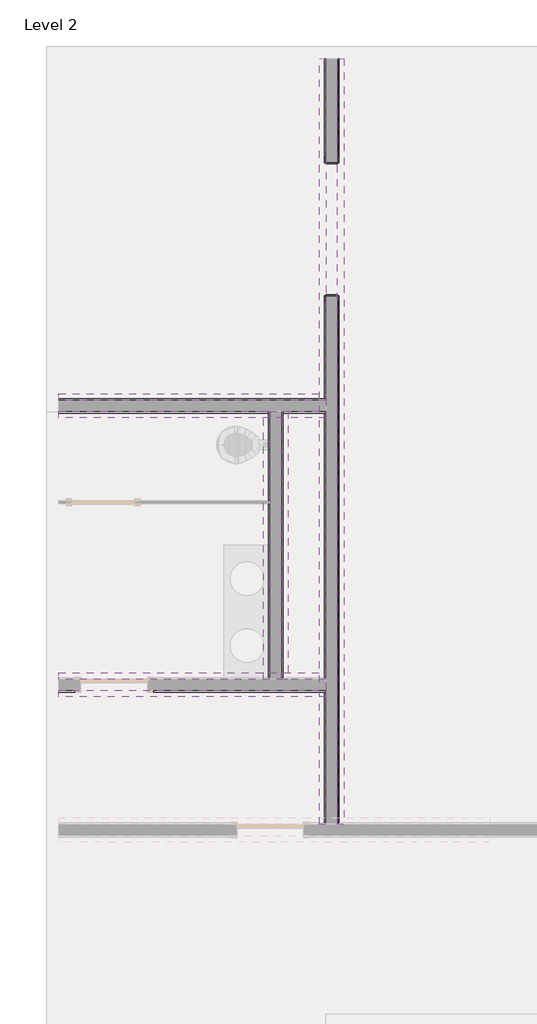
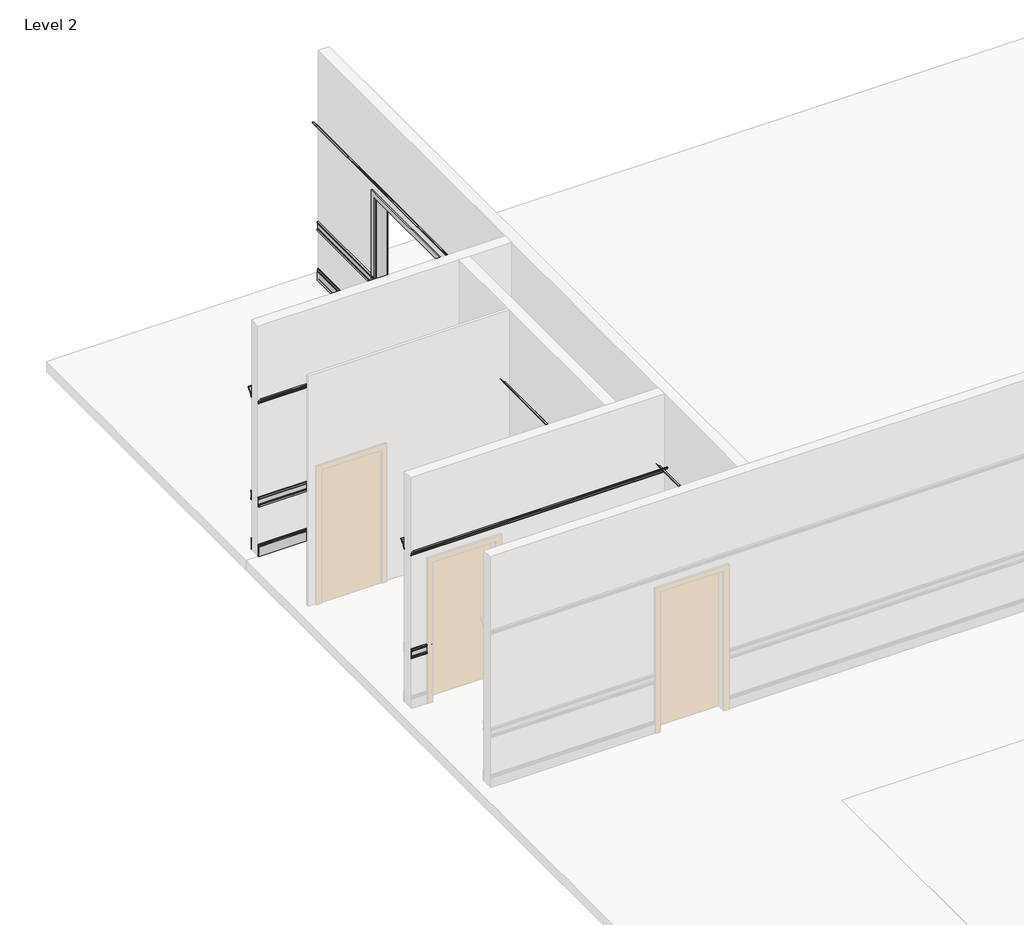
# One storey, part 14 of 14: 22 proxies.
"""IFC4 building model written with IfcOpenShell, lengths in millimetres."""

from ifc_helpers import new_model, si_unit, point, frame, frame_2d, origin, place, context, project, spatial, polyline, circle_curve, trimmed, segment, composite_curve, outline, extrude, transform, mapped, element, save
from components import proxy_2c88b4db

model = new_model("IFC4")

# Units and contexts
model_context = context("Model", 3, world=origin())
ifc_project = project(units=[si_unit("LENGTHUNIT", "METRE", prefix="MILLI")], contexts=[model_context])

# Site, building, storey
site = spatial("IfcSite", under=ifc_project)
building = spatial("IfcBuilding", under=site)
storey = spatial("IfcBuildingStorey", under=building, Name="Level 2", Elevation=3657.6)

# Proxies
placement = place(None, origin())
element("IfcBuildingElementProxy", 1, Name="Wall Sweeps", at=placement, inside=storey, context=model_context, shape_type="SweptSolid", body=[
    extrude(outline(composite_curve([segment(polyline([(3803.65, -13237.3910278), (3804.1164076, -13239.5853029)]), True, "CONTINUOUS"), segment(trimmed(circle_curve(frame_2d((3804.8928122, -13239.420273)), 0.79375), [point((3804.1164076, -13239.5853029))], [point((3805.438329, -13239.9968583))], True, "CARTESIAN"), True, "CONTINUOUS"), segment(trimmed(circle_curve(frame_2d((3812.047453, -13246.9160279)), 9.5684601), [point((3805.438329, -13239.9968583))], [point((3817.4244174, -13239.0012517))], False, "CARTESIAN"), True, "CONTINUOUS"), segment(polyline([(3817.4244174, -13239.0012517), (3827.5015472, -13245.8425445)]), True, "CONTINUOUS"), segment(trimmed(circle_curve(frame_2d((3831.034375, -13240.5660279)), 6.35), [point((3827.5015472, -13245.8425445))], [point((3836.0425393, -13244.4699733))], True, "CARTESIAN"), True, "CONTINUOUS"), segment(polyline([(3836.0425393, -13244.4699733), (3841.75, -13246.9160279), (3841.75, -13253.2660279), (3797.3, -13253.2660279), (3795.7125, -13251.6785279), (3684.5875, -13251.6785279), (3683.0, -13253.2660279), (3657.6, -13253.2660279), (3657.6, -13237.3910278), (3803.65, -13237.3910278)]), True, "CONTINUOUS")], self_intersect=False)), frame((0.0, 7914.5398319, 0.0), z_axis=(0.0, 1.0, 0.0), x_axis=(0.0, 0.0, 1.0)), (0.0, 0.0, 1.0), 1419.225),
    extrude(outline(composite_curve([segment(polyline([(3803.65, -13237.3910278), (3804.1164076, -13239.5853029)]), True, "CONTINUOUS"), segment(trimmed(circle_curve(frame_2d((3804.8928122, -13239.420273)), 0.79375), [point((3804.1164076, -13239.5853029))], [point((3805.438329, -13239.9968583))], True, "CARTESIAN"), True, "CONTINUOUS"), segment(trimmed(circle_curve(frame_2d((3812.047453, -13246.9160279)), 9.5684601), [point((3805.438329, -13239.9968583))], [point((3817.4244174, -13239.0012517))], False, "CARTESIAN"), True, "CONTINUOUS"), segment(polyline([(3817.4244174, -13239.0012517), (3827.5015472, -13245.8425445)]), True, "CONTINUOUS"), segment(trimmed(circle_curve(frame_2d((3831.034375, -13240.5660279)), 6.35), [point((3827.5015472, -13245.8425445))], [point((3836.0425393, -13244.4699733))], True, "CARTESIAN"), True, "CONTINUOUS"), segment(polyline([(3836.0425393, -13244.4699733), (3841.75, -13246.9160279), (3841.75, -13253.2660279), (3797.3, -13253.2660279), (3795.7125, -13251.6785279), (3684.5875, -13251.6785279), (3683.0, -13253.2660279), (3657.6, -13253.2660279), (3657.6, -13237.3910278), (3803.65, -13237.3910278)]), True, "CONTINUOUS")], self_intersect=False)), frame((0.0, -1131.0351681, 0.0), z_axis=(0.0, 1.0, 0.0), x_axis=(0.0, 0.0, 1.0)), (0.0, 0.0, 1.0), 7216.775),
])
element("IfcBuildingElementProxy", 2, Name="Wall Sweeps", at=placement, inside=storey, context=model_context, shape_type="SweptSolid", body=[
    extrude(outline(composite_curve([segment(polyline([(3803.65, -13424.716028), (3657.6, -13424.716028), (3657.6, -13408.8410279), (3683.0, -13408.8410279), (3684.5875, -13410.4285279), (3795.7125, -13410.4285279), (3797.3, -13408.8410279), (3841.75, -13408.8410279), (3841.75, -13415.1910279), (3836.0425393, -13417.6370825)]), True, "CONTINUOUS"), segment(trimmed(circle_curve(frame_2d((3831.034375, -13421.5410279)), 6.35), [point((3836.0425393, -13417.6370825))], [point((3827.5015472, -13416.2645113))], True, "CARTESIAN"), True, "CONTINUOUS"), segment(polyline([(3827.5015472, -13416.2645113), (3817.4244174, -13423.1058041)]), True, "CONTINUOUS"), segment(trimmed(circle_curve(frame_2d((3812.047453, -13415.1910279)), 9.5684601), [point((3817.4244174, -13423.1058041))], [point((3805.438329, -13422.1101975))], False, "CARTESIAN"), True, "CONTINUOUS"), segment(trimmed(circle_curve(frame_2d((3804.8928122, -13422.6867828)), 0.79375), [point((3805.438329, -13422.1101975))], [point((3804.1164076, -13422.5217529))], True, "CARTESIAN"), True, "CONTINUOUS"), segment(polyline([(3804.1164076, -13422.5217529), (3803.65, -13424.716028)]), True, "CONTINUOUS")], self_intersect=False)), frame((0.0, -1131.0351681, 0.0), z_axis=(0.0, 1.0, 0.0), x_axis=(0.0, 0.0, 1.0)), (0.0, 0.0, 1.0), 7216.775),
    extrude(outline(composite_curve([segment(polyline([(3803.65, -13424.716028), (3657.6, -13424.716028), (3657.6, -13408.8410279), (3683.0, -13408.8410279), (3684.5875, -13410.4285279), (3795.7125, -13410.4285279), (3797.3, -13408.8410279), (3841.75, -13408.8410279), (3841.75, -13415.1910279), (3836.0425393, -13417.6370825)]), True, "CONTINUOUS"), segment(trimmed(circle_curve(frame_2d((3831.034375, -13421.5410279)), 6.35), [point((3836.0425393, -13417.6370825))], [point((3827.5015472, -13416.2645113))], True, "CARTESIAN"), True, "CONTINUOUS"), segment(polyline([(3827.5015472, -13416.2645113), (3817.4244174, -13423.1058041)]), True, "CONTINUOUS"), segment(trimmed(circle_curve(frame_2d((3812.047453, -13415.1910279)), 9.5684601), [point((3817.4244174, -13423.1058041))], [point((3805.438329, -13422.1101975))], False, "CARTESIAN"), True, "CONTINUOUS"), segment(trimmed(circle_curve(frame_2d((3804.8928122, -13422.6867828)), 0.79375), [point((3805.438329, -13422.1101975))], [point((3804.1164076, -13422.5217529))], True, "CARTESIAN"), True, "CONTINUOUS"), segment(polyline([(3804.1164076, -13422.5217529), (3803.65, -13424.716028)]), True, "CONTINUOUS")], self_intersect=False)), frame((0.0, 7914.5398319, 0.0), z_axis=(0.0, 1.0, 0.0), x_axis=(0.0, 0.0, 1.0)), (0.0, 0.0, 1.0), 1419.225),
])
element("IfcBuildingElementProxy", 3, Name="Wall Sweeps", at=placement, inside=storey, context=model_context, shape_type="SweptSolid", body=[
    extrude(outline(composite_curve([segment(polyline([(4438.65, -13251.6785279), (4437.0625, -13253.2660279), (4419.6, -13253.2660279), (4419.6, -13232.6285279), (4438.65, -13232.6285279), (4438.65, -13235.0097779)]), True, "CONTINUOUS"), segment(trimmed(circle_curve(frame_2d((4441.03125, -13240.0298937)), 5.55625), [point((4438.65, -13235.0097779))], [point((4444.9601121, -13236.1010316))], False, "CARTESIAN"), True, "CONTINUOUS"), segment(trimmed(circle_curve(frame_2d((4453.7135672, -13228.3142086)), 11.7156984), [point((4444.9601121, -13236.1010316))], [point((4453.73125, -13240.0298937))], True, "CARTESIAN"), True, "CONTINUOUS"), segment(polyline([(4453.73125, -13240.0298937), (4453.73125, -13242.1535279), (4525.16875, -13242.1535279), (4525.16875, -13240.0298937)]), True, "CONTINUOUS"), segment(trimmed(circle_curve(frame_2d((4525.1864328, -13228.3142086)), 11.7156984), [point((4525.16875, -13240.0298937))], [point((4533.9398879, -13236.1010316))], True, "CARTESIAN"), True, "CONTINUOUS"), segment(trimmed(circle_curve(frame_2d((4537.86875, -13240.0298937)), 5.55625), [point((4533.9398879, -13236.1010316))], [point((4540.25, -13235.0097779))], False, "CARTESIAN"), True, "CONTINUOUS"), segment(polyline([(4540.25, -13235.0097779), (4540.25, -13232.6285279), (4559.3, -13232.6285279), (4559.3, -13253.2660279), (4541.8375, -13253.2660279), (4540.25, -13251.6785279), (4438.65, -13251.6785279)]), True, "CONTINUOUS")], self_intersect=False)), frame((0.0, 7914.5398319, 0.0), z_axis=(0.0, 1.0, 0.0), x_axis=(0.0, 0.0, 1.0)), (0.0, 0.0, 1.0), 1419.225),
    extrude(outline(composite_curve([segment(polyline([(4438.65, -13251.6785279), (4437.0625, -13253.2660279), (4419.6, -13253.2660279), (4419.6, -13232.6285279), (4438.65, -13232.6285279), (4438.65, -13235.0097779)]), True, "CONTINUOUS"), segment(trimmed(circle_curve(frame_2d((4441.03125, -13240.0298937)), 5.55625), [point((4438.65, -13235.0097779))], [point((4444.9601121, -13236.1010316))], False, "CARTESIAN"), True, "CONTINUOUS"), segment(trimmed(circle_curve(frame_2d((4453.7135672, -13228.3142086)), 11.7156984), [point((4444.9601121, -13236.1010316))], [point((4453.73125, -13240.0298937))], True, "CARTESIAN"), True, "CONTINUOUS"), segment(polyline([(4453.73125, -13240.0298937), (4453.73125, -13242.1535279), (4525.16875, -13242.1535279), (4525.16875, -13240.0298937)]), True, "CONTINUOUS"), segment(trimmed(circle_curve(frame_2d((4525.1864328, -13228.3142086)), 11.7156984), [point((4525.16875, -13240.0298937))], [point((4533.9398879, -13236.1010316))], True, "CARTESIAN"), True, "CONTINUOUS"), segment(trimmed(circle_curve(frame_2d((4537.86875, -13240.0298937)), 5.55625), [point((4533.9398879, -13236.1010316))], [point((4540.25, -13235.0097779))], False, "CARTESIAN"), True, "CONTINUOUS"), segment(polyline([(4540.25, -13235.0097779), (4540.25, -13232.6285279), (4559.3, -13232.6285279), (4559.3, -13253.2660279), (4541.8375, -13253.2660279), (4540.25, -13251.6785279), (4438.65, -13251.6785279)]), True, "CONTINUOUS")], self_intersect=False)), frame((0.0, -1131.0351681, 0.0), z_axis=(0.0, 1.0, 0.0), x_axis=(0.0, 0.0, 1.0)), (0.0, 0.0, 1.0), 7216.775),
])
element("IfcBuildingElementProxy", 4, Name="Wall Sweeps", at=placement, inside=storey, context=model_context, shape_type="SweptSolid", body=[
    extrude(outline(composite_curve([segment(polyline([(4438.65, -13410.4285279), (4540.25, -13410.4285279), (4541.8375, -13408.8410279), (4559.3, -13408.8410279), (4559.3, -13429.4785279), (4540.25, -13429.4785279), (4540.25, -13427.0972779)]), True, "CONTINUOUS"), segment(trimmed(circle_curve(frame_2d((4537.86875, -13422.0771621)), 5.55625), [point((4540.25, -13427.0972779))], [point((4533.9398879, -13426.0060242))], False, "CARTESIAN"), True, "CONTINUOUS"), segment(trimmed(circle_curve(frame_2d((4525.1864328, -13433.7928472)), 11.7156984), [point((4533.9398879, -13426.0060242))], [point((4525.16875, -13422.0771621))], True, "CARTESIAN"), True, "CONTINUOUS"), segment(polyline([(4525.16875, -13422.0771621), (4525.16875, -13419.9535279), (4453.73125, -13419.9535279), (4453.73125, -13422.0771621)]), True, "CONTINUOUS"), segment(trimmed(circle_curve(frame_2d((4453.7135672, -13433.7928472)), 11.7156984), [point((4453.73125, -13422.0771621))], [point((4444.9601121, -13426.0060242))], True, "CARTESIAN"), True, "CONTINUOUS"), segment(trimmed(circle_curve(frame_2d((4441.03125, -13422.0771621)), 5.55625), [point((4444.9601121, -13426.0060242))], [point((4438.65, -13427.0972779))], False, "CARTESIAN"), True, "CONTINUOUS"), segment(polyline([(4438.65, -13427.0972779), (4438.65, -13429.4785279), (4419.6, -13429.4785279), (4419.6, -13408.8410279), (4437.0625, -13408.8410279), (4438.65, -13410.4285279)]), True, "CONTINUOUS")], self_intersect=False)), frame((0.0, -1131.0351681, 0.0), z_axis=(0.0, 1.0, 0.0), x_axis=(0.0, 0.0, 1.0)), (0.0, 0.0, 1.0), 7216.775),
    extrude(outline(composite_curve([segment(polyline([(4438.65, -13410.4285279), (4540.25, -13410.4285279), (4541.8375, -13408.8410279), (4559.3, -13408.8410279), (4559.3, -13429.4785279), (4540.25, -13429.4785279), (4540.25, -13427.0972779)]), True, "CONTINUOUS"), segment(trimmed(circle_curve(frame_2d((4537.86875, -13422.0771621)), 5.55625), [point((4540.25, -13427.0972779))], [point((4533.9398879, -13426.0060242))], False, "CARTESIAN"), True, "CONTINUOUS"), segment(trimmed(circle_curve(frame_2d((4525.1864328, -13433.7928472)), 11.7156984), [point((4533.9398879, -13426.0060242))], [point((4525.16875, -13422.0771621))], True, "CARTESIAN"), True, "CONTINUOUS"), segment(polyline([(4525.16875, -13422.0771621), (4525.16875, -13419.9535279), (4453.73125, -13419.9535279), (4453.73125, -13422.0771621)]), True, "CONTINUOUS"), segment(trimmed(circle_curve(frame_2d((4453.7135672, -13433.7928472)), 11.7156984), [point((4453.73125, -13422.0771621))], [point((4444.9601121, -13426.0060242))], True, "CARTESIAN"), True, "CONTINUOUS"), segment(trimmed(circle_curve(frame_2d((4441.03125, -13422.0771621)), 5.55625), [point((4444.9601121, -13426.0060242))], [point((4438.65, -13427.0972779))], False, "CARTESIAN"), True, "CONTINUOUS"), segment(polyline([(4438.65, -13427.0972779), (4438.65, -13429.4785279), (4419.6, -13429.4785279), (4419.6, -13408.8410279), (4437.0625, -13408.8410279), (4438.65, -13410.4285279)]), True, "CONTINUOUS")], self_intersect=False)), frame((0.0, 7914.5398319, 0.0), z_axis=(0.0, 1.0, 0.0), x_axis=(0.0, 0.0, 1.0)), (0.0, 0.0, 1.0), 1419.225),
])
element("IfcBuildingElementProxy", 5, Name="Wall Sweeps", at=placement, inside=storey, context=model_context, shape_type="SweptSolid", body=[
    extrude(outline(composite_curve([segment(polyline([(6095.999973, -13185.0728653), (6009.4919306, -13253.2660279), (5984.875, -13253.2660279), (5984.875, -13246.0831607)]), True, "CONTINUOUS"), segment(trimmed(circle_curve(frame_2d((5984.8589154, -13238.8297413)), 7.2534372), [point((5984.875, -13246.0831607))], [point((5991.3297498, -13242.1070348))], True, "CARTESIAN"), True, "CONTINUOUS"), segment(polyline([(5991.3297498, -13242.1070348), (5995.6157037, -13242.1070348)]), True, "CONTINUOUS"), segment(trimmed(circle_curve(frame_2d((6005.5606001, -13245.4685575)), 10.4976568), [point((5995.6157037, -13242.1070348))], [point((6006.0207604, -13234.980991))], False, "CARTESIAN"), True, "CONTINUOUS"), segment(polyline([(6006.0207604, -13234.980991), (6006.0207604, -13231.3921501), (6011.0554653, -13231.3921501), (6011.0554653, -13228.1647752)]), True, "CONTINUOUS"), segment(trimmed(circle_curve(frame_2d((6007.8346746, -13181.2163732)), 47.0587499), [point((6011.0554653, -13228.1647752))], [point((6049.7194168, -13202.6685134))], True, "CARTESIAN"), True, "CONTINUOUS"), segment(polyline([(6049.7194168, -13202.6685134), (6054.4442936, -13195.4262841)]), True, "CONTINUOUS"), segment(trimmed(circle_curve(frame_2d((6074.6589994, -13203.7344754)), 21.8554426), [point((6054.4442936, -13195.4262841))], [point((6073.7698146, -13181.8971284))], False, "CARTESIAN"), True, "CONTINUOUS"), segment(polyline([(6073.7698146, -13181.8971284), (6079.2202934, -13181.8971284), (6079.2202934, -13179.1285646)]), True, "CONTINUOUS"), segment(trimmed(circle_curve(frame_2d((6087.2314026, -13178.186238)), 8.0663405), [point((6079.2202934, -13179.1285646))], [point((6085.3986257, -13170.3308718))], False, "CARTESIAN"), True, "CONTINUOUS"), segment(trimmed(circle_curve(frame_2d((6081.5641253, -13163.0468868)), 8.2316359), [point((6085.3986257, -13170.3308718))], [point((6088.8481102, -13166.8813873))], True, "CARTESIAN"), True, "CONTINUOUS"), segment(polyline([(6088.8481102, -13166.8813873), (6088.8481102, -13164.3660279), (6095.999973, -13164.3660279), (6095.999973, -13185.0728653)]), True, "CONTINUOUS")], self_intersect=False)), frame((0.0, -1131.0351681, 0.0), z_axis=(0.0, 1.0, 0.0), x_axis=(0.0, 0.0, 1.0)), (0.0, 0.0, 1.0), 10464.8),
])
element("IfcBuildingElementProxy", 6, Name="Wall Sweeps", at=placement, inside=storey, context=model_context, shape_type="SweptSolid", body=[
    extrude(outline(composite_curve([segment(polyline([(6095.999973, -13477.0341905), (6095.999973, -13497.7410279), (6088.8481102, -13497.7410279), (6088.8481102, -13495.2256685)]), True, "CONTINUOUS"), segment(trimmed(circle_curve(frame_2d((6081.5641253, -13499.0601689)), 8.2316359), [point((6088.8481102, -13495.2256685))], [point((6085.3986257, -13491.776184))], True, "CARTESIAN"), True, "CONTINUOUS"), segment(trimmed(circle_curve(frame_2d((6087.2314026, -13483.9208178)), 8.0663405), [point((6085.3986257, -13491.776184))], [point((6079.2202934, -13482.9784911))], False, "CARTESIAN"), True, "CONTINUOUS"), segment(polyline([(6079.2202934, -13482.9784911), (6079.2202934, -13480.2099274), (6073.7698146, -13480.2099274)]), True, "CONTINUOUS"), segment(trimmed(circle_curve(frame_2d((6074.6589994, -13458.3725804)), 21.8554426), [point((6073.7698146, -13480.2099274))], [point((6054.4442936, -13466.6807717))], False, "CARTESIAN"), True, "CONTINUOUS"), segment(polyline([(6054.4442936, -13466.6807717), (6049.7194168, -13459.4385424)]), True, "CONTINUOUS"), segment(trimmed(circle_curve(frame_2d((6007.8346746, -13480.8906826)), 47.0587499), [point((6049.7194168, -13459.4385424))], [point((6011.0554653, -13433.9422806))], True, "CARTESIAN"), True, "CONTINUOUS"), segment(polyline([(6011.0554653, -13433.9422806), (6011.0554653, -13430.7149057), (6006.0207604, -13430.7149057), (6006.0207604, -13427.1260648)]), True, "CONTINUOUS"), segment(trimmed(circle_curve(frame_2d((6005.5606001, -13416.6384983)), 10.4976568), [point((6006.0207604, -13427.1260648))], [point((5995.6157037, -13420.000021))], False, "CARTESIAN"), True, "CONTINUOUS"), segment(polyline([(5995.6157037, -13420.000021), (5991.3297498, -13420.000021)]), True, "CONTINUOUS"), segment(trimmed(circle_curve(frame_2d((5984.8589154, -13423.2773145)), 7.2534372), [point((5991.3297498, -13420.000021))], [point((5984.875, -13416.0238951))], True, "CARTESIAN"), True, "CONTINUOUS"), segment(polyline([(5984.875, -13416.0238951), (5984.875, -13408.8410279), (6009.4919306, -13408.8410279), (6095.999973, -13477.0341905)]), True, "CONTINUOUS")], self_intersect=False)), frame((0.0, -1131.0351681, 0.0), z_axis=(0.0, 1.0, 0.0), x_axis=(0.0, 0.0, 1.0)), (0.0, 0.0, 1.0), 10464.8),
])
element("IfcBuildingElementProxy", 7, Name="Wall Sweeps", at=placement, inside=storey, context=model_context, shape_type="SweptSolid", body=[
    extrude(outline(composite_curve([segment(polyline([(696.1773319, 4438.65), (697.7648319, 4437.0625), (697.7648319, 4419.6), (677.1273319, 4419.6), (677.1273319, 4438.65), (679.5085819, 4438.65)]), True, "CONTINUOUS"), segment(trimmed(circle_curve(frame_2d((684.5286977, 4441.03125)), 5.55625), [point((679.5085819, 4438.65))], [point((680.5998357, 4444.9601121))], False, "CARTESIAN"), True, "CONTINUOUS"), segment(trimmed(circle_curve(frame_2d((672.8130126, 4453.7135672)), 11.7156984), [point((680.5998357, 4444.9601121))], [point((684.5286977, 4453.73125))], True, "CARTESIAN"), True, "CONTINUOUS"), segment(polyline([(684.5286977, 4453.73125), (686.6523319, 4453.73125), (686.6523319, 4525.16875), (684.5286977, 4525.16875)]), True, "CONTINUOUS"), segment(trimmed(circle_curve(frame_2d((672.8130126, 4525.1864328)), 11.7156984), [point((684.5286977, 4525.16875))], [point((680.5998357, 4533.9398879))], True, "CARTESIAN"), True, "CONTINUOUS"), segment(trimmed(circle_curve(frame_2d((684.5286977, 4537.86875)), 5.55625), [point((680.5998357, 4533.9398879))], [point((679.5085819, 4540.25))], False, "CARTESIAN"), True, "CONTINUOUS"), segment(polyline([(679.5085819, 4540.25), (677.1273319, 4540.25), (677.1273319, 4559.3), (697.7648319, 4559.3), (697.7648319, 4541.8375), (696.1773319, 4540.25), (696.1773319, 4438.65)]), True, "CONTINUOUS")], self_intersect=False)), frame((-15847.2410279, 0.0, 0.0), z_axis=(1.0, 0.0, 0.0), x_axis=(0.0, 1.0, 0.0)), (0.0, 0.0, 1.0), 2438.4),
    extrude(outline(composite_curve([segment(polyline([(696.1773319, 4438.65), (697.7648319, 4437.0625), (697.7648319, 4419.6), (677.1273319, 4419.6), (677.1273319, 4438.65), (679.5085819, 4438.65)]), True, "CONTINUOUS"), segment(trimmed(circle_curve(frame_2d((684.5286977, 4441.03125)), 5.55625), [point((679.5085819, 4438.65))], [point((680.5998357, 4444.9601121))], False, "CARTESIAN"), True, "CONTINUOUS"), segment(trimmed(circle_curve(frame_2d((672.8130126, 4453.7135672)), 11.7156984), [point((680.5998357, 4444.9601121))], [point((684.5286977, 4453.73125))], True, "CARTESIAN"), True, "CONTINUOUS"), segment(polyline([(684.5286977, 4453.73125), (686.6523319, 4453.73125), (686.6523319, 4525.16875), (684.5286977, 4525.16875)]), True, "CONTINUOUS"), segment(trimmed(circle_curve(frame_2d((672.8130126, 4525.1864328)), 11.7156984), [point((684.5286977, 4525.16875))], [point((680.5998357, 4533.9398879))], True, "CARTESIAN"), True, "CONTINUOUS"), segment(trimmed(circle_curve(frame_2d((684.5286977, 4537.86875)), 5.55625), [point((680.5998357, 4533.9398879))], [point((679.5085819, 4540.25))], False, "CARTESIAN"), True, "CONTINUOUS"), segment(polyline([(679.5085819, 4540.25), (677.1273319, 4540.25), (677.1273319, 4559.3), (697.7648319, 4559.3), (697.7648319, 4541.8375), (696.1773319, 4540.25), (696.1773319, 4438.65)]), True, "CONTINUOUS")], self_intersect=False)), frame((-17066.4410279, 0.0, 0.0), z_axis=(1.0, 0.0, 0.0), x_axis=(0.0, 1.0, 0.0)), (0.0, 0.0, 1.0), 304.8),
])
element("IfcBuildingElementProxy", 8, Name="Wall Sweeps", at=placement, inside=storey, context=model_context, shape_type="SweptSolid", body=[
    extrude(outline(composite_curve([segment(polyline([(921.5329945, 6095.999973), (942.2398319, 6095.999973), (942.2398319, 6088.8481102), (939.7244725, 6088.8481102)]), True, "CONTINUOUS"), segment(trimmed(circle_curve(frame_2d((943.558973, 6081.5641253)), 8.2316359), [point((939.7244725, 6088.8481102))], [point((936.2749881, 6085.3986257))], True, "CARTESIAN"), True, "CONTINUOUS"), segment(trimmed(circle_curve(frame_2d((928.4196219, 6087.2314026)), 8.0663405), [point((936.2749881, 6085.3986257))], [point((927.4772952, 6079.2202934))], False, "CARTESIAN"), True, "CONTINUOUS"), segment(polyline([(927.4772952, 6079.2202934), (924.7087314, 6079.2202934), (924.7087314, 6073.7698146)]), True, "CONTINUOUS"), segment(trimmed(circle_curve(frame_2d((902.8713845, 6074.6589994)), 21.8554426), [point((924.7087314, 6073.7698146))], [point((911.1795758, 6054.4442936))], False, "CARTESIAN"), True, "CONTINUOUS"), segment(polyline([(911.1795758, 6054.4442936), (903.9373465, 6049.7194168)]), True, "CONTINUOUS"), segment(trimmed(circle_curve(frame_2d((925.3894866, 6007.8346746)), 47.0587499), [point((903.9373465, 6049.7194168))], [point((878.4410846, 6011.0554653))], True, "CARTESIAN"), True, "CONTINUOUS"), segment(polyline([(878.4410846, 6011.0554653), (875.2137097, 6011.0554653), (875.2137097, 6006.0207604), (871.6248688, 6006.0207604)]), True, "CONTINUOUS"), segment(trimmed(circle_curve(frame_2d((861.1373024, 6005.5606001)), 10.4976568), [point((871.6248688, 6006.0207604))], [point((864.498825, 5995.6157037))], False, "CARTESIAN"), True, "CONTINUOUS"), segment(polyline([(864.498825, 5995.6157037), (864.498825, 5991.3297498)]), True, "CONTINUOUS"), segment(trimmed(circle_curve(frame_2d((867.7761185, 5984.8589154)), 7.2534372), [point((864.498825, 5991.3297498))], [point((860.5226991, 5984.875))], True, "CARTESIAN"), True, "CONTINUOUS"), segment(polyline([(860.5226991, 5984.875), (853.3398319, 5984.875), (853.3398319, 6009.4919306), (921.5329945, 6095.999973)]), True, "CONTINUOUS")], self_intersect=False)), frame((-17066.4410279, 0.0, 0.0), z_axis=(1.0, 0.0, 0.0), x_axis=(0.0, 1.0, 0.0)), (0.0, 0.0, 1.0), 3657.6),
])
element("IfcBuildingElementProxy", 9, Name="Wall Sweeps", at=placement, inside=storey, context=model_context, shape_type="SweptSolid", body=[
    extrude(outline(composite_curve([segment(polyline([(629.5716694, 6095.999973), (697.7648319, 6009.4919306), (697.7648319, 5984.875), (690.5819647, 5984.875)]), True, "CONTINUOUS"), segment(trimmed(circle_curve(frame_2d((683.3285454, 5984.8589154)), 7.2534372), [point((690.5819647, 5984.875))], [point((686.6058388, 5991.3297498))], True, "CARTESIAN"), True, "CONTINUOUS"), segment(polyline([(686.6058388, 5991.3297498), (686.6058388, 5995.6157037)]), True, "CONTINUOUS"), segment(trimmed(circle_curve(frame_2d((689.9673615, 6005.5606001)), 10.4976568), [point((686.6058388, 5995.6157037))], [point((679.479795, 6006.0207604))], False, "CARTESIAN"), True, "CONTINUOUS"), segment(polyline([(679.479795, 6006.0207604), (675.8909541, 6006.0207604), (675.8909541, 6011.0554653), (672.6635792, 6011.0554653)]), True, "CONTINUOUS"), segment(trimmed(circle_curve(frame_2d((625.7151772, 6007.8346746)), 47.0587499), [point((672.6635792, 6011.0554653))], [point((647.1673174, 6049.7194168))], True, "CARTESIAN"), True, "CONTINUOUS"), segment(polyline([(647.1673174, 6049.7194168), (639.9250881, 6054.4442936)]), True, "CONTINUOUS"), segment(trimmed(circle_curve(frame_2d((648.2332794, 6074.6589994)), 21.8554426), [point((639.9250881, 6054.4442936))], [point((626.3959325, 6073.7698146))], False, "CARTESIAN"), True, "CONTINUOUS"), segment(polyline([(626.3959325, 6073.7698146), (626.3959325, 6079.2202934), (623.6273687, 6079.2202934)]), True, "CONTINUOUS"), segment(trimmed(circle_curve(frame_2d((622.685042, 6087.2314026)), 8.0663405), [point((623.6273687, 6079.2202934))], [point((614.8296758, 6085.3986257))], False, "CARTESIAN"), True, "CONTINUOUS"), segment(trimmed(circle_curve(frame_2d((607.5456909, 6081.5641253)), 8.2316359), [point((614.8296758, 6085.3986257))], [point((611.3801913, 6088.8481102))], True, "CARTESIAN"), True, "CONTINUOUS"), segment(polyline([(611.3801913, 6088.8481102), (608.8648319, 6088.8481102), (608.8648319, 6095.999973), (629.5716694, 6095.999973)]), True, "CONTINUOUS")], self_intersect=False)), frame((-17066.4410279, 0.0, 0.0), z_axis=(1.0, 0.0, 0.0), x_axis=(0.0, 1.0, 0.0)), (0.0, 0.0, 1.0), 3657.6),
])
element("IfcBuildingElementProxy", 10, Name="Wall Sweeps", at=placement, inside=storey, context=model_context, shape_type="SweptSolid", body=[
    extrude(outline(composite_curve([segment(polyline([(4682.389832, 3803.65), (4682.389832, 3657.6), (4666.5148319, 3657.6), (4666.5148319, 3683.0), (4668.1023319, 3684.5875), (4668.1023319, 3795.7125), (4666.5148319, 3797.3), (4666.5148319, 3841.75), (4672.8648319, 3841.75), (4675.3108865, 3836.0425393)]), True, "CONTINUOUS"), segment(trimmed(circle_curve(frame_2d((4679.2148319, 3831.034375)), 6.35), [point((4675.3108865, 3836.0425393))], [point((4673.9383153, 3827.5015472))], True, "CARTESIAN"), True, "CONTINUOUS"), segment(polyline([(4673.9383153, 3827.5015472), (4680.7796081, 3817.4244174)]), True, "CONTINUOUS"), segment(trimmed(circle_curve(frame_2d((4672.8648319, 3812.047453)), 9.5684601), [point((4680.7796081, 3817.4244174))], [point((4679.7840015, 3805.438329))], False, "CARTESIAN"), True, "CONTINUOUS"), segment(trimmed(circle_curve(frame_2d((4680.3605868, 3804.8928122)), 0.79375), [point((4679.7840015, 3805.438329))], [point((4680.1955569, 3804.1164076))], True, "CARTESIAN"), True, "CONTINUOUS"), segment(polyline([(4680.1955569, 3804.1164076), (4682.389832, 3803.65)]), True, "CONTINUOUS")], self_intersect=False)), frame((-17066.4410279, 0.0, 0.0), z_axis=(1.0, 0.0, 0.0), x_axis=(0.0, 1.0, 0.0)), (0.0, 0.0, 1.0), 3657.6),
])
element("IfcBuildingElementProxy", 11, Name="Wall Sweeps", at=placement, inside=storey, context=model_context, shape_type="SweptSolid", body=[
    extrude(outline(composite_curve([segment(polyline([(4495.0648318, 3803.65), (4497.259107, 3804.1164076)]), True, "CONTINUOUS"), segment(trimmed(circle_curve(frame_2d((4497.0940771, 3804.8928122)), 0.79375), [point((4497.259107, 3804.1164076))], [point((4497.6706623, 3805.438329))], True, "CARTESIAN"), True, "CONTINUOUS"), segment(trimmed(circle_curve(frame_2d((4504.5898319, 3812.047453)), 9.5684601), [point((4497.6706623, 3805.438329))], [point((4496.6750557, 3817.4244174))], False, "CARTESIAN"), True, "CONTINUOUS"), segment(polyline([(4496.6750557, 3817.4244174), (4503.5163486, 3827.5015472)]), True, "CONTINUOUS"), segment(trimmed(circle_curve(frame_2d((4498.2398319, 3831.034375)), 6.35), [point((4503.5163486, 3827.5015472))], [point((4502.1437774, 3836.0425393))], True, "CARTESIAN"), True, "CONTINUOUS"), segment(polyline([(4502.1437774, 3836.0425393), (4504.5898319, 3841.75), (4510.9398319, 3841.75), (4510.9398319, 3797.3), (4509.3523319, 3795.7125), (4509.3523319, 3684.5875), (4510.9398319, 3683.0), (4510.9398319, 3657.6), (4495.0648318, 3657.6), (4495.0648318, 3803.65)]), True, "CONTINUOUS")], self_intersect=False)), frame((-17066.4410279, 0.0, 0.0), z_axis=(1.0, 0.0, 0.0), x_axis=(0.0, 1.0, 0.0)), (0.0, 0.0, 1.0), 3657.6),
])
element("IfcBuildingElementProxy", 12, Name="Wall Sweeps", at=placement, inside=storey, context=model_context, shape_type="SweptSolid", body=[
    extrude(outline(composite_curve([segment(polyline([(4668.1023319, 4438.65), (4668.1023319, 4540.25), (4666.5148319, 4541.8375), (4666.5148319, 4559.3), (4687.1523319, 4559.3), (4687.1523319, 4540.25), (4684.7710819, 4540.25)]), True, "CONTINUOUS"), segment(trimmed(circle_curve(frame_2d((4679.7509661, 4537.86875)), 5.55625), [point((4684.7710819, 4540.25))], [point((4683.6798282, 4533.9398879))], False, "CARTESIAN"), True, "CONTINUOUS"), segment(trimmed(circle_curve(frame_2d((4691.4666512, 4525.1864328)), 11.7156984), [point((4683.6798282, 4533.9398879))], [point((4679.7509661, 4525.16875))], True, "CARTESIAN"), True, "CONTINUOUS"), segment(polyline([(4679.7509661, 4525.16875), (4677.6273319, 4525.16875), (4677.6273319, 4453.73125), (4679.7509661, 4453.73125)]), True, "CONTINUOUS"), segment(trimmed(circle_curve(frame_2d((4691.4666512, 4453.7135672)), 11.7156984), [point((4679.7509661, 4453.73125))], [point((4683.6798282, 4444.9601121))], True, "CARTESIAN"), True, "CONTINUOUS"), segment(trimmed(circle_curve(frame_2d((4679.7509661, 4441.03125)), 5.55625), [point((4683.6798282, 4444.9601121))], [point((4684.7710819, 4438.65))], False, "CARTESIAN"), True, "CONTINUOUS"), segment(polyline([(4684.7710819, 4438.65), (4687.1523319, 4438.65), (4687.1523319, 4419.6), (4666.5148319, 4419.6), (4666.5148319, 4437.0625), (4668.1023319, 4438.65)]), True, "CONTINUOUS")], self_intersect=False)), frame((-17066.4410279, 0.0, 0.0), z_axis=(1.0, 0.0, 0.0), x_axis=(0.0, 1.0, 0.0)), (0.0, 0.0, 1.0), 3657.6),
])
element("IfcBuildingElementProxy", 13, Name="Wall Sweeps", at=placement, inside=storey, context=model_context, shape_type="SweptSolid", body=[
    extrude(outline(composite_curve([segment(polyline([(4509.3523319, 4438.65), (4510.9398319, 4437.0625), (4510.9398319, 4419.6), (4490.3023319, 4419.6), (4490.3023319, 4438.65), (4492.6835819, 4438.65)]), True, "CONTINUOUS"), segment(trimmed(circle_curve(frame_2d((4497.7036977, 4441.03125)), 5.55625), [point((4492.6835819, 4438.65))], [point((4493.7748357, 4444.9601121))], False, "CARTESIAN"), True, "CONTINUOUS"), segment(trimmed(circle_curve(frame_2d((4485.9880126, 4453.7135672)), 11.7156984), [point((4493.7748357, 4444.9601121))], [point((4497.7036977, 4453.73125))], True, "CARTESIAN"), True, "CONTINUOUS"), segment(polyline([(4497.7036977, 4453.73125), (4499.8273319, 4453.73125), (4499.8273319, 4525.16875), (4497.7036977, 4525.16875)]), True, "CONTINUOUS"), segment(trimmed(circle_curve(frame_2d((4485.9880126, 4525.1864328)), 11.7156984), [point((4497.7036977, 4525.16875))], [point((4493.7748357, 4533.9398879))], True, "CARTESIAN"), True, "CONTINUOUS"), segment(trimmed(circle_curve(frame_2d((4497.7036977, 4537.86875)), 5.55625), [point((4493.7748357, 4533.9398879))], [point((4492.6835819, 4540.25))], False, "CARTESIAN"), True, "CONTINUOUS"), segment(polyline([(4492.6835819, 4540.25), (4490.3023319, 4540.25), (4490.3023319, 4559.3), (4510.9398319, 4559.3), (4510.9398319, 4541.8375), (4509.3523319, 4540.25), (4509.3523319, 4438.65)]), True, "CONTINUOUS")], self_intersect=False)), frame((-17066.4410279, 0.0, 0.0), z_axis=(1.0, 0.0, 0.0), x_axis=(0.0, 1.0, 0.0)), (0.0, 0.0, 1.0), 3657.6),
])
element("IfcBuildingElementProxy", 14, Name="Wall Sweeps", at=placement, inside=storey, context=model_context, shape_type="SweptSolid", body=[
    extrude(outline(composite_curve([segment(polyline([(4734.7079945, 6095.999973), (4755.4148319, 6095.999973), (4755.4148319, 6088.8481102), (4752.8994725, 6088.8481102)]), True, "CONTINUOUS"), segment(trimmed(circle_curve(frame_2d((4756.733973, 6081.5641253)), 8.2316359), [point((4752.8994725, 6088.8481102))], [point((4749.4499881, 6085.3986257))], True, "CARTESIAN"), True, "CONTINUOUS"), segment(trimmed(circle_curve(frame_2d((4741.5946219, 6087.2314026)), 8.0663405), [point((4749.4499881, 6085.3986257))], [point((4740.6522952, 6079.2202934))], False, "CARTESIAN"), True, "CONTINUOUS"), segment(polyline([(4740.6522952, 6079.2202934), (4737.8837314, 6079.2202934), (4737.8837314, 6073.7698146)]), True, "CONTINUOUS"), segment(trimmed(circle_curve(frame_2d((4716.0463845, 6074.6589994)), 21.8554426), [point((4737.8837314, 6073.7698146))], [point((4724.3545758, 6054.4442936))], False, "CARTESIAN"), True, "CONTINUOUS"), segment(polyline([(4724.3545758, 6054.4442936), (4717.1123465, 6049.7194168)]), True, "CONTINUOUS"), segment(trimmed(circle_curve(frame_2d((4738.5644866, 6007.8346746)), 47.0587499), [point((4717.1123465, 6049.7194168))], [point((4691.6160846, 6011.0554653))], True, "CARTESIAN"), True, "CONTINUOUS"), segment(polyline([(4691.6160846, 6011.0554653), (4688.3887097, 6011.0554653), (4688.3887097, 6006.0207604), (4684.7998688, 6006.0207604)]), True, "CONTINUOUS"), segment(trimmed(circle_curve(frame_2d((4674.3123024, 6005.5606001)), 10.4976568), [point((4684.7998688, 6006.0207604))], [point((4677.673825, 5995.6157037))], False, "CARTESIAN"), True, "CONTINUOUS"), segment(polyline([(4677.673825, 5995.6157037), (4677.673825, 5991.3297498)]), True, "CONTINUOUS"), segment(trimmed(circle_curve(frame_2d((4680.9511185, 5984.8589154)), 7.2534372), [point((4677.673825, 5991.3297498))], [point((4673.6976991, 5984.875))], True, "CARTESIAN"), True, "CONTINUOUS"), segment(polyline([(4673.6976991, 5984.875), (4666.5148319, 5984.875), (4666.5148319, 6009.4919306), (4734.7079945, 6095.999973)]), True, "CONTINUOUS")], self_intersect=False)), frame((-17066.4410279, 0.0, 0.0), z_axis=(1.0, 0.0, 0.0), x_axis=(0.0, 1.0, 0.0)), (0.0, 0.0, 1.0), 3657.6),
])
element("IfcBuildingElementProxy", 15, Name="Wall Sweeps", at=placement, inside=storey, context=model_context, shape_type="SweptSolid", body=[
    extrude(outline(composite_curve([segment(polyline([(4442.7466694, 6095.999973), (4510.9398319, 6009.4919306), (4510.9398319, 5984.875), (4503.7569647, 5984.875)]), True, "CONTINUOUS"), segment(trimmed(circle_curve(frame_2d((4496.5035454, 5984.8589154)), 7.2534372), [point((4503.7569647, 5984.875))], [point((4499.7808388, 5991.3297498))], True, "CARTESIAN"), True, "CONTINUOUS"), segment(polyline([(4499.7808388, 5991.3297498), (4499.7808388, 5995.6157037)]), True, "CONTINUOUS"), segment(trimmed(circle_curve(frame_2d((4503.1423615, 6005.5606001)), 10.4976568), [point((4499.7808388, 5995.6157037))], [point((4492.654795, 6006.0207604))], False, "CARTESIAN"), True, "CONTINUOUS"), segment(polyline([(4492.654795, 6006.0207604), (4489.0659541, 6006.0207604), (4489.0659541, 6011.0554653), (4485.8385792, 6011.0554653)]), True, "CONTINUOUS"), segment(trimmed(circle_curve(frame_2d((4438.8901772, 6007.8346746)), 47.0587499), [point((4485.8385792, 6011.0554653))], [point((4460.3423174, 6049.7194168))], True, "CARTESIAN"), True, "CONTINUOUS"), segment(polyline([(4460.3423174, 6049.7194168), (4453.1000881, 6054.4442936)]), True, "CONTINUOUS"), segment(trimmed(circle_curve(frame_2d((4461.4082794, 6074.6589994)), 21.8554426), [point((4453.1000881, 6054.4442936))], [point((4439.5709325, 6073.7698146))], False, "CARTESIAN"), True, "CONTINUOUS"), segment(polyline([(4439.5709325, 6073.7698146), (4439.5709325, 6079.2202934), (4436.8023687, 6079.2202934)]), True, "CONTINUOUS"), segment(trimmed(circle_curve(frame_2d((4435.860042, 6087.2314026)), 8.0663405), [point((4436.8023687, 6079.2202934))], [point((4428.0046758, 6085.3986257))], False, "CARTESIAN"), True, "CONTINUOUS"), segment(trimmed(circle_curve(frame_2d((4420.7206909, 6081.5641253)), 8.2316359), [point((4428.0046758, 6085.3986257))], [point((4424.5551913, 6088.8481102))], True, "CARTESIAN"), True, "CONTINUOUS"), segment(polyline([(4424.5551913, 6088.8481102), (4422.0398319, 6088.8481102), (4422.0398319, 6095.999973), (4442.7466694, 6095.999973)]), True, "CONTINUOUS")], self_intersect=False)), frame((-17066.4410279, 0.0, 0.0), z_axis=(1.0, 0.0, 0.0), x_axis=(0.0, 1.0, 0.0)), (0.0, 0.0, 1.0), 3657.6),
])
element("IfcBuildingElementProxy", 16, Name="Wall Sweeps", at=placement, inside=storey, context=model_context, shape_type="SweptSolid", body=[
    extrude(outline(composite_curve([segment(polyline([(3803.65, -13999.3910278), (3804.1164076, -14001.5853029)]), True, "CONTINUOUS"), segment(trimmed(circle_curve(frame_2d((3804.8928122, -14001.420273)), 0.79375), [point((3804.1164076, -14001.5853029))], [point((3805.438329, -14001.9968583))], True, "CARTESIAN"), True, "CONTINUOUS"), segment(trimmed(circle_curve(frame_2d((3812.047453, -14008.9160279)), 9.5684601), [point((3805.438329, -14001.9968583))], [point((3817.4244174, -14001.0012517))], False, "CARTESIAN"), True, "CONTINUOUS"), segment(polyline([(3817.4244174, -14001.0012517), (3827.5015472, -14007.8425445)]), True, "CONTINUOUS"), segment(trimmed(circle_curve(frame_2d((3831.034375, -14002.5660279)), 6.35), [point((3827.5015472, -14007.8425445))], [point((3836.0425393, -14006.4699733))], True, "CARTESIAN"), True, "CONTINUOUS"), segment(polyline([(3836.0425393, -14006.4699733), (3841.75, -14008.9160279), (3841.75, -14015.2660279), (3797.3, -14015.2660279), (3795.7125, -14013.6785279), (3684.5875, -14013.6785279), (3683.0, -14015.2660279), (3657.6, -14015.2660279), (3657.6, -13999.3910278), (3803.65, -13999.3910278)]), True, "CONTINUOUS")], self_intersect=False)), frame((0.0, 853.3398319, 0.0), z_axis=(0.0, 1.0, 0.0), x_axis=(0.0, 0.0, 1.0)), (0.0, 0.0, 1.0), 3657.6),
])
element("IfcBuildingElementProxy", 17, Name="Wall Sweeps", at=placement, inside=storey, context=model_context, shape_type="SweptSolid", body=[
    extrude(outline(composite_curve([segment(polyline([(3803.65, -14186.716028), (3657.6, -14186.716028), (3657.6, -14170.8410279), (3683.0, -14170.8410279), (3684.5875, -14172.4285279), (3795.7125, -14172.4285279), (3797.3, -14170.8410279), (3841.75, -14170.8410279), (3841.75, -14177.1910279), (3836.0425393, -14179.6370825)]), True, "CONTINUOUS"), segment(trimmed(circle_curve(frame_2d((3831.034375, -14183.5410279)), 6.35), [point((3836.0425393, -14179.6370825))], [point((3827.5015472, -14178.2645113))], True, "CARTESIAN"), True, "CONTINUOUS"), segment(polyline([(3827.5015472, -14178.2645113), (3817.4244174, -14185.1058041)]), True, "CONTINUOUS"), segment(trimmed(circle_curve(frame_2d((3812.047453, -14177.1910279)), 9.5684601), [point((3817.4244174, -14185.1058041))], [point((3805.438329, -14184.1101975))], False, "CARTESIAN"), True, "CONTINUOUS"), segment(trimmed(circle_curve(frame_2d((3804.8928122, -14184.6867828)), 0.79375), [point((3805.438329, -14184.1101975))], [point((3804.1164076, -14184.5217529))], True, "CARTESIAN"), True, "CONTINUOUS"), segment(polyline([(3804.1164076, -14184.5217529), (3803.65, -14186.716028)]), True, "CONTINUOUS")], self_intersect=False)), frame((0.0, 853.3398319, 0.0), z_axis=(0.0, 1.0, 0.0), x_axis=(0.0, 0.0, 1.0)), (0.0, 0.0, 1.0), 3657.6),
])
element("IfcBuildingElementProxy", 18, Name="Wall Sweeps", at=placement, inside=storey, context=model_context, shape_type="SweptSolid", body=[
    extrude(outline(composite_curve([segment(polyline([(4438.65, -14013.6785279), (4437.0625, -14015.2660279), (4419.6, -14015.2660279), (4419.6, -13994.6285279), (4438.65, -13994.6285279), (4438.65, -13997.0097779)]), True, "CONTINUOUS"), segment(trimmed(circle_curve(frame_2d((4441.03125, -14002.0298937)), 5.55625), [point((4438.65, -13997.0097779))], [point((4444.9601121, -13998.1010316))], False, "CARTESIAN"), True, "CONTINUOUS"), segment(trimmed(circle_curve(frame_2d((4453.7135672, -13990.3142086)), 11.7156984), [point((4444.9601121, -13998.1010316))], [point((4453.73125, -14002.0298937))], True, "CARTESIAN"), True, "CONTINUOUS"), segment(polyline([(4453.73125, -14002.0298937), (4453.73125, -14004.1535279), (4525.16875, -14004.1535279), (4525.16875, -14002.0298937)]), True, "CONTINUOUS"), segment(trimmed(circle_curve(frame_2d((4525.1864328, -13990.3142086)), 11.7156984), [point((4525.16875, -14002.0298937))], [point((4533.9398879, -13998.1010316))], True, "CARTESIAN"), True, "CONTINUOUS"), segment(trimmed(circle_curve(frame_2d((4537.86875, -14002.0298937)), 5.55625), [point((4533.9398879, -13998.1010316))], [point((4540.25, -13997.0097779))], False, "CARTESIAN"), True, "CONTINUOUS"), segment(polyline([(4540.25, -13997.0097779), (4540.25, -13994.6285279), (4559.3, -13994.6285279), (4559.3, -14015.2660279), (4541.8375, -14015.2660279), (4540.25, -14013.6785279), (4438.65, -14013.6785279)]), True, "CONTINUOUS")], self_intersect=False)), frame((0.0, 853.3398319, 0.0), z_axis=(0.0, 1.0, 0.0), x_axis=(0.0, 0.0, 1.0)), (0.0, 0.0, 1.0), 3657.6),
])
element("IfcBuildingElementProxy", 19, Name="Wall Sweeps", at=placement, inside=storey, context=model_context, shape_type="SweptSolid", body=[
    extrude(outline(composite_curve([segment(polyline([(4438.65, -14172.4285279), (4540.25, -14172.4285279), (4541.8375, -14170.8410279), (4559.3, -14170.8410279), (4559.3, -14191.4785279), (4540.25, -14191.4785279), (4540.25, -14189.0972779)]), True, "CONTINUOUS"), segment(trimmed(circle_curve(frame_2d((4537.86875, -14184.0771621)), 5.55625), [point((4540.25, -14189.0972779))], [point((4533.9398879, -14188.0060242))], False, "CARTESIAN"), True, "CONTINUOUS"), segment(trimmed(circle_curve(frame_2d((4525.1864328, -14195.7928472)), 11.7156984), [point((4533.9398879, -14188.0060242))], [point((4525.16875, -14184.0771621))], True, "CARTESIAN"), True, "CONTINUOUS"), segment(polyline([(4525.16875, -14184.0771621), (4525.16875, -14181.9535279), (4453.73125, -14181.9535279), (4453.73125, -14184.0771621)]), True, "CONTINUOUS"), segment(trimmed(circle_curve(frame_2d((4453.7135672, -14195.7928472)), 11.7156984), [point((4453.73125, -14184.0771621))], [point((4444.9601121, -14188.0060242))], True, "CARTESIAN"), True, "CONTINUOUS"), segment(trimmed(circle_curve(frame_2d((4441.03125, -14184.0771621)), 5.55625), [point((4444.9601121, -14188.0060242))], [point((4438.65, -14189.0972779))], False, "CARTESIAN"), True, "CONTINUOUS"), segment(polyline([(4438.65, -14189.0972779), (4438.65, -14191.4785279), (4419.6, -14191.4785279), (4419.6, -14170.8410279), (4437.0625, -14170.8410279), (4438.65, -14172.4285279)]), True, "CONTINUOUS")], self_intersect=False)), frame((0.0, 853.3398319, 0.0), z_axis=(0.0, 1.0, 0.0), x_axis=(0.0, 0.0, 1.0)), (0.0, 0.0, 1.0), 3657.6),
])
element("IfcBuildingElementProxy", 20, Name="Wall Sweeps", at=placement, inside=storey, context=model_context, shape_type="SweptSolid", body=[
    extrude(outline(composite_curve([segment(polyline([(6095.999973, -13947.0728653), (6009.4919306, -14015.2660279), (5984.875, -14015.2660279), (5984.875, -14008.0831607)]), True, "CONTINUOUS"), segment(trimmed(circle_curve(frame_2d((5984.8589154, -14000.8297413)), 7.2534372), [point((5984.875, -14008.0831607))], [point((5991.3297498, -14004.1070348))], True, "CARTESIAN"), True, "CONTINUOUS"), segment(polyline([(5991.3297498, -14004.1070348), (5995.6157037, -14004.1070348)]), True, "CONTINUOUS"), segment(trimmed(circle_curve(frame_2d((6005.5606001, -14007.4685575)), 10.4976568), [point((5995.6157037, -14004.1070348))], [point((6006.0207604, -13996.980991))], False, "CARTESIAN"), True, "CONTINUOUS"), segment(polyline([(6006.0207604, -13996.980991), (6006.0207604, -13993.3921501), (6011.0554653, -13993.3921501), (6011.0554653, -13990.1647752)]), True, "CONTINUOUS"), segment(trimmed(circle_curve(frame_2d((6007.8346746, -13943.2163732)), 47.0587499), [point((6011.0554653, -13990.1647752))], [point((6049.7194168, -13964.6685134))], True, "CARTESIAN"), True, "CONTINUOUS"), segment(polyline([(6049.7194168, -13964.6685134), (6054.4442936, -13957.4262841)]), True, "CONTINUOUS"), segment(trimmed(circle_curve(frame_2d((6074.6589994, -13965.7344754)), 21.8554426), [point((6054.4442936, -13957.4262841))], [point((6073.7698146, -13943.8971284))], False, "CARTESIAN"), True, "CONTINUOUS"), segment(polyline([(6073.7698146, -13943.8971284), (6079.2202934, -13943.8971284), (6079.2202934, -13941.1285646)]), True, "CONTINUOUS"), segment(trimmed(circle_curve(frame_2d((6087.2314026, -13940.186238)), 8.0663405), [point((6079.2202934, -13941.1285646))], [point((6085.3986257, -13932.3308718))], False, "CARTESIAN"), True, "CONTINUOUS"), segment(trimmed(circle_curve(frame_2d((6081.5641253, -13925.0468868)), 8.2316359), [point((6085.3986257, -13932.3308718))], [point((6088.8481102, -13928.8813873))], True, "CARTESIAN"), True, "CONTINUOUS"), segment(polyline([(6088.8481102, -13928.8813873), (6088.8481102, -13926.3660279), (6095.999973, -13926.3660279), (6095.999973, -13947.0728653)]), True, "CONTINUOUS")], self_intersect=False)), frame((0.0, 853.3398319, 0.0), z_axis=(0.0, 1.0, 0.0), x_axis=(0.0, 0.0, 1.0)), (0.0, 0.0, 1.0), 3657.6),
])
element("IfcBuildingElementProxy", 21, Name="Wall Sweeps", at=placement, inside=storey, context=model_context, shape_type="SweptSolid", body=[
    extrude(outline(composite_curve([segment(polyline([(6095.999973, -14239.0341905), (6095.999973, -14259.7410279), (6088.8481102, -14259.7410279), (6088.8481102, -14257.2256685)]), True, "CONTINUOUS"), segment(trimmed(circle_curve(frame_2d((6081.5641253, -14261.0601689)), 8.2316359), [point((6088.8481102, -14257.2256685))], [point((6085.3986257, -14253.776184))], True, "CARTESIAN"), True, "CONTINUOUS"), segment(trimmed(circle_curve(frame_2d((6087.2314026, -14245.9208178)), 8.0663405), [point((6085.3986257, -14253.776184))], [point((6079.2202934, -14244.9784911))], False, "CARTESIAN"), True, "CONTINUOUS"), segment(polyline([(6079.2202934, -14244.9784911), (6079.2202934, -14242.2099274), (6073.7698146, -14242.2099274)]), True, "CONTINUOUS"), segment(trimmed(circle_curve(frame_2d((6074.6589994, -14220.3725804)), 21.8554426), [point((6073.7698146, -14242.2099274))], [point((6054.4442936, -14228.6807717))], False, "CARTESIAN"), True, "CONTINUOUS"), segment(polyline([(6054.4442936, -14228.6807717), (6049.7194168, -14221.4385424)]), True, "CONTINUOUS"), segment(trimmed(circle_curve(frame_2d((6007.8346746, -14242.8906826)), 47.0587499), [point((6049.7194168, -14221.4385424))], [point((6011.0554653, -14195.9422806))], True, "CARTESIAN"), True, "CONTINUOUS"), segment(polyline([(6011.0554653, -14195.9422806), (6011.0554653, -14192.7149057), (6006.0207604, -14192.7149057), (6006.0207604, -14189.1260648)]), True, "CONTINUOUS"), segment(trimmed(circle_curve(frame_2d((6005.5606001, -14178.6384983)), 10.4976568), [point((6006.0207604, -14189.1260648))], [point((5995.6157037, -14182.000021))], False, "CARTESIAN"), True, "CONTINUOUS"), segment(polyline([(5995.6157037, -14182.000021), (5991.3297498, -14182.000021)]), True, "CONTINUOUS"), segment(trimmed(circle_curve(frame_2d((5984.8589154, -14185.2773145)), 7.2534372), [point((5991.3297498, -14182.000021))], [point((5984.875, -14178.0238951))], True, "CARTESIAN"), True, "CONTINUOUS"), segment(polyline([(5984.875, -14178.0238951), (5984.875, -14170.8410279), (6009.4919306, -14170.8410279), (6095.999973, -14239.0341905)]), True, "CONTINUOUS")], self_intersect=False)), frame((0.0, 853.3398319, 0.0), z_axis=(0.0, 1.0, 0.0), x_axis=(0.0, 0.0, 1.0)), (0.0, 0.0, 1.0), 3657.6),
])
proxy_shape = proxy_2c88b4db(model_context)
element("IfcBuildingElementProxy", 22, Name="Passage Opening-Cased : 72\" x 84\"", ObjectType="Passage Opening-Cased : 72\" x 84\"", at=placement, inside=storey, context=model_context, shape_type="MappedRepresentation", body=[
    mapped(proxy_shape, transform((-13331.0535279, 6991.9511752, 3657.6), x_axis=(0.0, -1.0, 0.0), y_axis=(1.0, 0.0, 0.0), z_axis=(0.0, 0.0, 1.0))),
])

save(model, "model.ifc")
